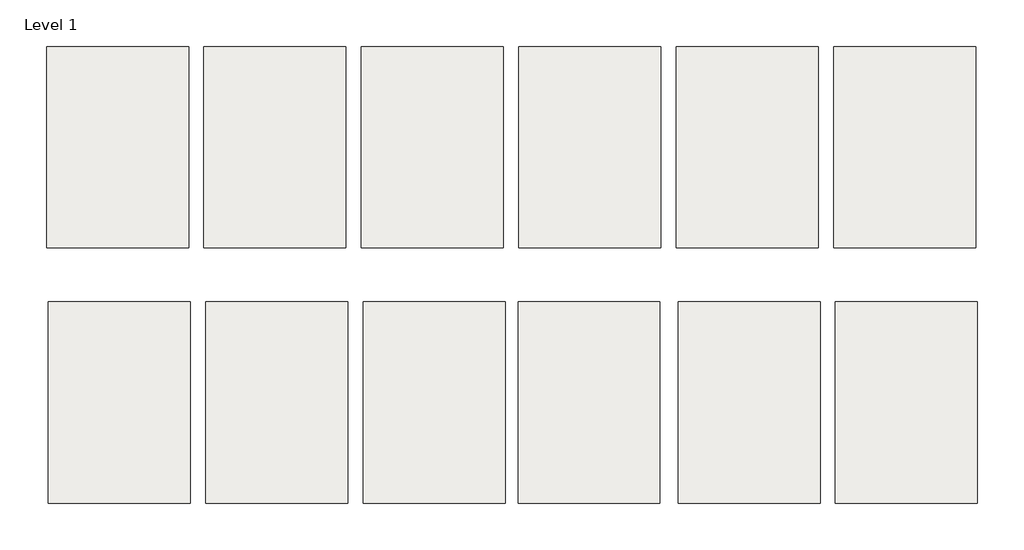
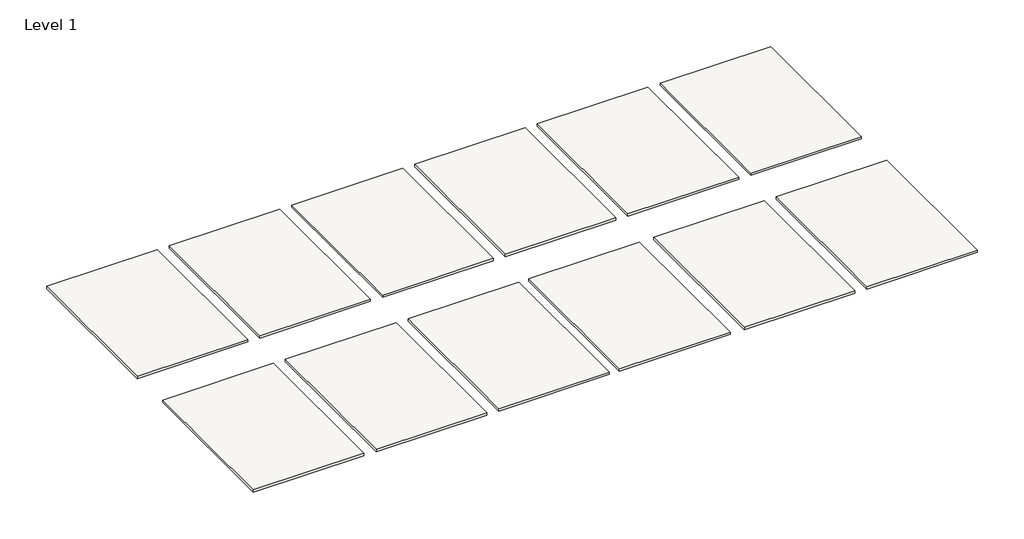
# One storey: 12 slabs.
"""IFC4 building model written with IfcOpenShell, lengths in millimetres."""

from ifc_helpers import new_model, si_unit, frame, origin, place, context, project, spatial, polyline, outline, extrude, element, save

model = new_model("IFC4")

# Units and contexts
model_context = context("Model", 3, world=origin())
ifc_project = project(units=[si_unit("LENGTHUNIT", "METRE", prefix="MILLI")], contexts=[model_context])

# Site, building, storey
site = spatial("IfcSite", under=ifc_project)
building = spatial("IfcBuilding", under=site)
storey = spatial("IfcBuildingStorey", under=building, Name="Level 1", Elevation=0.0)

# Slabs
placement = place(None, origin())
element("IfcSlab", 1, ObjectType="Edgewood Formative Clic - Aged Barnwood", at=placement, inside=storey, context=model_context, shape_type="SweptSolid", body=[
    extrude(outline(polyline([(-13234.634711, 9163.8218851), (-13234.634711, 8668.5218851), (-13583.884711, 8668.5218851), (-13583.884711, 9163.8218851), (-13234.634711, 9163.8218851)])), frame((0.0, 0.0, -7.6398438), z_axis=(0.0, 0.0, 1.0), x_axis=(1.0, 0.0, 0.0)), (0.0, 0.0, 1.0), 7.6398438),
])
element("IfcSlab", 2, ObjectType="Edgewood Formative Clic - Anise Oak", at=placement, inside=storey, context=model_context, shape_type="SweptSolid", body=[
    extrude(outline(polyline([(-12847.284711, 9163.8218851), (-12847.284711, 8668.5218851), (-13196.534711, 8668.5218851), (-13196.534711, 9163.8218851), (-12847.284711, 9163.8218851)])), frame((0.0, 0.0, -7.6398438), z_axis=(0.0, 0.0, 1.0), x_axis=(1.0, 0.0, 0.0)), (0.0, 0.0, 1.0), 7.6398438),
])
element("IfcSlab", 3, ObjectType="Edgewood Formative Clic - Auburn Oak", at=placement, inside=storey, context=model_context, shape_type="SweptSolid", body=[
    extrude(outline(polyline([(-12459.934711, 9163.8218851), (-12459.934711, 8668.5218851), (-12809.184711, 8668.5218851), (-12809.184711, 9163.8218851), (-12459.934711, 9163.8218851)])), frame((0.0, 0.0, -7.6398438), z_axis=(0.0, 0.0, 1.0), x_axis=(1.0, 0.0, 0.0)), (0.0, 0.0, 1.0), 7.6398438),
])
element("IfcSlab", 4, ObjectType="Edgewood Formative Clic - Chalk Oak", at=placement, inside=storey, context=model_context, shape_type="SweptSolid", body=[
    extrude(outline(polyline([(-12072.584711, 9163.8218851), (-12072.584711, 8668.5218851), (-12421.834711, 8668.5218851), (-12421.834711, 9163.8218851), (-12072.584711, 9163.8218851)])), frame((0.0, 0.0, -7.6398438), z_axis=(0.0, 0.0, 1.0), x_axis=(1.0, 0.0, 0.0)), (0.0, 0.0, 1.0), 7.6398438),
])
element("IfcSlab", 5, ObjectType="Edgewood Formative Clic - Charred Oak", at=placement, inside=storey, context=model_context, shape_type="SweptSolid", body=[
    extrude(outline(polyline([(-11685.234711, 9163.8218851), (-11685.234711, 8668.5218851), (-12034.484711, 8668.5218851), (-12034.484711, 9163.8218851), (-11685.234711, 9163.8218851)])), frame((0.0, 0.0, -7.6398438), z_axis=(0.0, 0.0, 1.0), x_axis=(1.0, 0.0, 0.0)), (0.0, 0.0, 1.0), 7.6398438),
])
element("IfcSlab", 6, ObjectType="Edgewood Formative Clic - Espresso Hickory", at=placement, inside=storey, context=model_context, shape_type="SweptSolid", body=[
    extrude(outline(polyline([(-11297.884711, 9163.8218851), (-11297.884711, 8668.5218851), (-11647.134711, 8668.5218851), (-11647.134711, 9163.8218851), (-11297.884711, 9163.8218851)])), frame((0.0, 0.0, -7.6398438), z_axis=(0.0, 0.0, 1.0), x_axis=(1.0, 0.0, 0.0)), (0.0, 0.0, 1.0), 7.6398438),
])
element("IfcSlab", 7, ObjectType="Edgewood Formative Clic - Ginger Beech", at=placement, inside=storey, context=model_context, shape_type="SweptSolid", body=[
    extrude(outline(polyline([(-13230.4315521, 8535.8993525), (-13230.4315521, 8040.5993525), (-13579.6815521, 8040.5993525), (-13579.6815521, 8535.8993525), (-13230.4315521, 8535.8993525)])), frame((0.0, 0.0, -7.6398438), z_axis=(0.0, 0.0, 1.0), x_axis=(1.0, 0.0, 0.0)), (0.0, 0.0, 1.0), 7.6398438),
])
element("IfcSlab", 8, ObjectType="Edgewood Formative Clic - Mist Ash", at=placement, inside=storey, context=model_context, shape_type="SweptSolid", body=[
    extrude(outline(polyline([(-12843.0815521, 8535.8993525), (-12843.0815521, 8040.5993525), (-13192.3315521, 8040.5993525), (-13192.3315521, 8535.8993525), (-12843.0815521, 8535.8993525)])), frame((0.0, 0.0, -7.6398438), z_axis=(0.0, 0.0, 1.0), x_axis=(1.0, 0.0, 0.0)), (0.0, 0.0, 1.0), 7.6398438),
])
element("IfcSlab", 9, ObjectType="Edgewood Formative Clic - Nutmeg Oak", at=placement, inside=storey, context=model_context, shape_type="SweptSolid", body=[
    extrude(outline(polyline([(-12455.7315521, 8535.8993525), (-12455.7315521, 8040.5993525), (-12804.9815521, 8040.5993525), (-12804.9815521, 8535.8993525), (-12455.7315521, 8535.8993525)])), frame((0.0, 0.0, -7.6398438), z_axis=(0.0, 0.0, 1.0), x_axis=(1.0, 0.0, 0.0)), (0.0, 0.0, 1.0), 7.6398438),
])
element("IfcSlab", 10, ObjectType="Edgewood Formative Clic - Rustic Barnwood", at=placement, inside=storey, context=model_context, shape_type="SweptSolid", body=[
    extrude(outline(polyline([(-12074.7315521, 8535.8993525), (-12074.7315521, 8040.5993525), (-12423.9815521, 8040.5993525), (-12423.9815521, 8535.8993525), (-12074.7315521, 8535.8993525)])), frame((0.0, 0.0, -7.6398438), z_axis=(0.0, 0.0, 1.0), x_axis=(1.0, 0.0, 0.0)), (0.0, 0.0, 1.0), 7.6398438),
])
element("IfcSlab", 11, ObjectType="Edgewood Formative Clic - Smoked Oak", at=placement, inside=storey, context=model_context, shape_type="SweptSolid", body=[
    extrude(outline(polyline([(-11681.0315521, 8535.8993525), (-11681.0315521, 8040.5993525), (-12030.2815521, 8040.5993525), (-12030.2815521, 8535.8993525), (-11681.0315521, 8535.8993525)])), frame((0.0, 0.0, -7.6398438), z_axis=(0.0, 0.0, 1.0), x_axis=(1.0, 0.0, 0.0)), (0.0, 0.0, 1.0), 7.6398438),
])
element("IfcSlab", 12, ObjectType="Edgewood Formative Clic - Vintage Barnwood", at=placement, inside=storey, context=model_context, shape_type="SweptSolid", body=[
    extrude(outline(polyline([(-11293.6815521, 8535.8993525), (-11293.6815521, 8040.5993525), (-11642.9315521, 8040.5993525), (-11642.9315521, 8535.8993525), (-11293.6815521, 8535.8993525)])), frame((0.0, 0.0, -7.6398438), z_axis=(0.0, 0.0, 1.0), x_axis=(1.0, 0.0, 0.0)), (0.0, 0.0, 1.0), 7.6398438),
])

save(model, "model.ifc")
